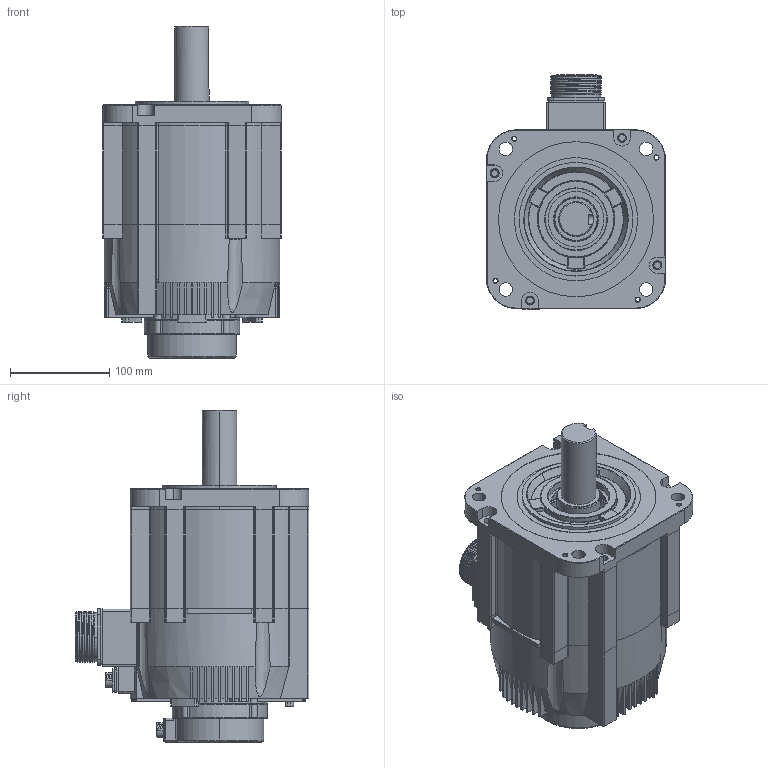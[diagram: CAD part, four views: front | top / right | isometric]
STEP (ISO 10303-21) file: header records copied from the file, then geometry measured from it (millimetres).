
FILE_DESCRIPTION (( 'STEP AP203' ), '1' );
FILE_NAME ('SMP-H440B.STEP', '2021-05-04T05:54:30', ( '' ), ( '' ), 'SwSTEP 2.0', 'SolidWorks 2016', '' );
FILE_SCHEMA (( 'CONFIG_CONTROL_DESIGN' ));
Length unit declared in the file: millimetre
Products named in the file (1): SMP-H440B
Bounding box: 180 x 235.3 x 334 mm (x, y, z)
Surface area: 343199.3 mm2 (no closed solid volume)
Topology: 0 solids, 16 shells, 1019 faces, 3098 edges, 2067 vertices
Faces by surface type: cylinder 468, plane 400, bspline 77, cone 74
Entity records: 45327 total; most frequent: CARTESIAN_POINT 18069, DIRECTION 5658, ORIENTED_EDGE 5591, EDGE_CURVE 3070, AXIS2_PLACEMENT_3D 2131, VERTEX_POINT 2067, LINE 1396, VECTOR 1396
